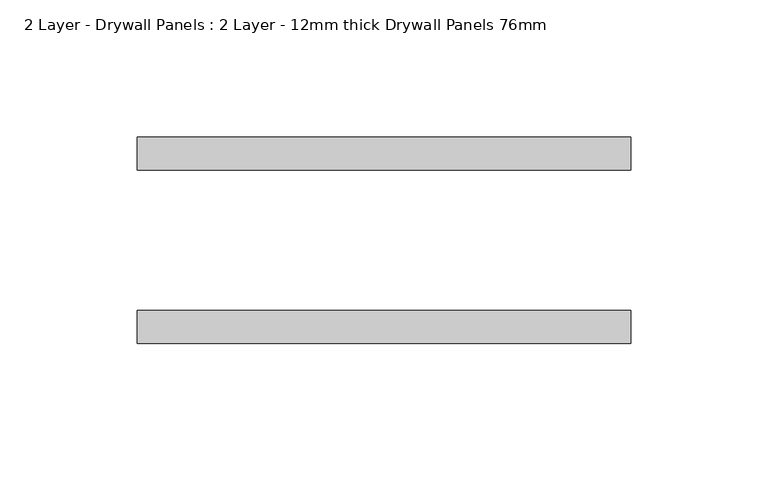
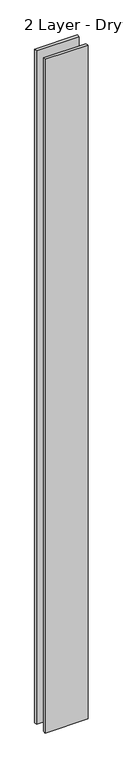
"""IFC4 building model written with IfcOpenShell, lengths in millimetres: plate geometry, 2 Layer - Drywall Panels : 2 Layer - 12mm thick Drywall Panels 76mm."""

from ifc_helpers import new_model, si_unit, origin, origin_with_axes, place, context, project, spatial, polyline, outline, extrude, source, transform, mapped, element, save


def plate_2_layer_drywall_panels_2_layer_12mm_thick_drywall_8d42099b(model_context):
    return source(origin(), model_context, "Body", "SweptSolid", [
        extrude(outline(polyline([(89.6999998, 25.5), (-89.6999998, 25.5), (-89.6999998, 37.5), (89.6999998, 37.5), (89.6999998, 25.5)])), origin_with_axes(), (0.0, 0.0, 1.0), 2979.4),
        extrude(outline(polyline([(89.6999998, -25.5), (89.6999998, -37.5), (-89.6999998, -37.5), (-89.6999998, -25.5), (89.6999998, -25.5)])), origin_with_axes(), (0.0, 0.0, 1.0), 2979.4),
    ])


if __name__ == "__main__":
    model = new_model("IFC4")
    model_context = context("Model", 3, world=origin())
    ifc_project = project(units=[si_unit("LENGTHUNIT", "METRE", prefix="MILLI")], contexts=[model_context])
    site = spatial("IfcSite", under=ifc_project)
    building = spatial("IfcBuilding", under=site)
    placement = place(None, origin())
    plate_2_layer_drywall_panels_2_layer_12mm_thick_drywall_shape = plate_2_layer_drywall_panels_2_layer_12mm_thick_drywall_8d42099b(model_context)
    element("IfcPlate", 1, ObjectType="2 Layer - Drywall Panels : 2 Layer - 12mm thick Drywall Panels 76mm", at=placement, inside=building, context=model_context, shape_type="MappedRepresentation", body=[
        mapped(plate_2_layer_drywall_panels_2_layer_12mm_thick_drywall_shape, transform((0.0, 0.0, 0.0), x_axis=(1.0, 0.0, 0.0), y_axis=(0.0, 1.0, 0.0), z_axis=(0.0, 0.0, 1.0))),
    ])
    save(model, "model.ifc")
